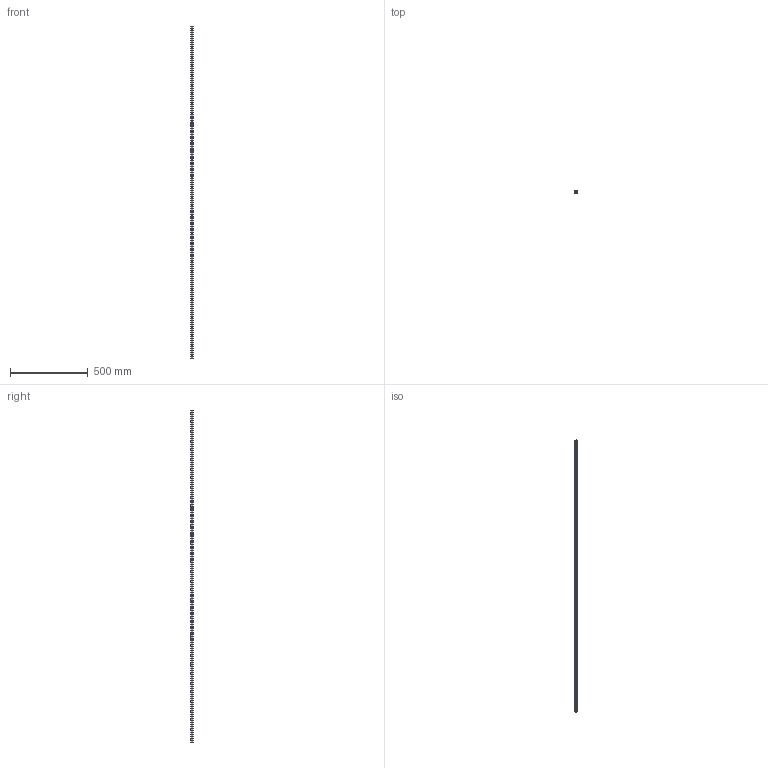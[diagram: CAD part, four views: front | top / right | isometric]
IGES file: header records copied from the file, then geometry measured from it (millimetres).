
Start section: SolidWorks IGES file using analytic representation for surfaces
Global section: file name: C:\Users\IanO\Desktop\L1016_v2\L1016.BL15_v2\L1016.BL15_v2_20190611_IGES\L1016.BL15-2140.igs; native system: SolidWorks 2017; preprocessor: SolidWorks 2017; author: IanO; date: 190612.123112; units: millimetre
Bounding box: 15 x 13 x 2140 mm (x, y, z)
Surface area: 130813.6 mm2 (no closed solid volume)
Topology: 0 solids, 0 shells, 206 faces, 5336 edges, 5336 vertices
Faces by surface type: revolution 148, bspline 58
